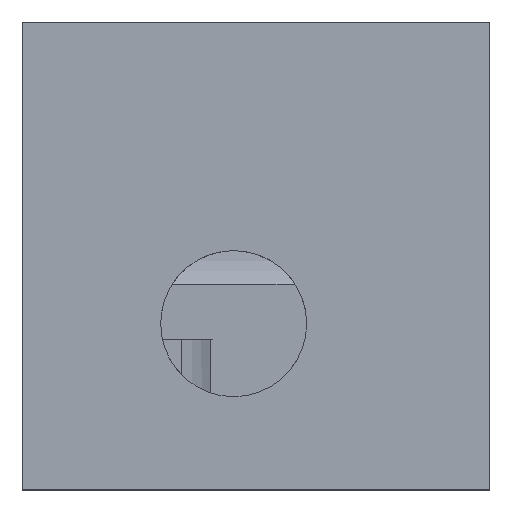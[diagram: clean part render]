
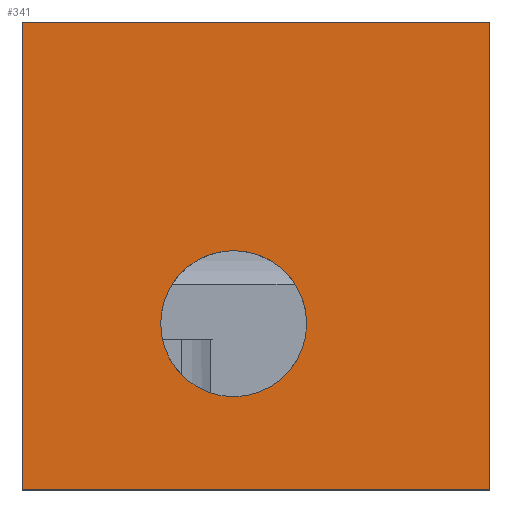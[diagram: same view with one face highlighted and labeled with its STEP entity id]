
A CAD part, top view. The second image highlights one B-rep face of the part: STEP entity #341.
In plain terms, the highlighted planar face has unit normal (0, 0, 1).
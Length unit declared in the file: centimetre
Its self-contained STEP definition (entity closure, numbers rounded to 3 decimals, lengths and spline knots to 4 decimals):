
#35 = CARTESIAN_POINT ( 'NONE',  ( 1000., 1000., 1000. ) ) ;
#37 = VECTOR ( 'NONE', #101, 100. ) ;
#63 = DIRECTION ( 'NONE',  ( 0., 0., 1. ) ) ;
#64 = LINE ( 'NONE', #436, #99 ) ;
#68 = ORIENTED_EDGE ( 'NONE', *, *, #257, .F. ) ;
#79 = CARTESIAN_POINT ( 'NONE',  ( 0., 1000., 1000. ) ) ;
#83 = LINE ( 'NONE', #699, #469 ) ;
#99 = VECTOR ( 'NONE', #658, 100. ) ;
#101 = DIRECTION ( 'NONE',  ( 0., -1., 0. ) ) ;
#113 = CIRCLE ( 'NONE', #666, 156.303 ) ;
#144 = DIRECTION ( 'NONE',  ( 1., 0., 0. ) ) ;
#147 = EDGE_CURVE ( 'NONE', #466, #272, #83, .T. ) ;
#153 = CARTESIAN_POINT ( 'NONE',  ( 0., 0., 1000. ) ) ;
#198 = FACE_BOUND ( 'NONE', #351, .T. ) ;
#219 = DIRECTION ( 'NONE',  ( 1., 0., 0. ) ) ;
#250 = CARTESIAN_POINT ( 'NONE',  ( 452.1899, 354.3472, 1000. ) ) ;
#257 = EDGE_CURVE ( 'NONE', #438, #620, #400, .T. ) ;
#260 = FACE_OUTER_BOUND ( 'NONE', #723, .T. ) ;
#268 = VERTEX_POINT ( 'NONE', #79 ) ;
#269 = DIRECTION ( 'NONE',  ( 0., 0., 1. ) ) ;
#272 = VERTEX_POINT ( 'NONE', #277 ) ;
#277 = CARTESIAN_POINT ( 'NONE',  ( 1000., 0., 1000. ) ) ;
#278 = EDGE_CURVE ( 'NONE', #272, #378, #333, .T. ) ;
#289 = ORIENTED_EDGE ( 'NONE', *, *, #631, .T. ) ;
#293 = EDGE_CURVE ( 'NONE', #620, #438, #113, .T. ) ;
#301 = CARTESIAN_POINT ( 'NONE',  ( 608.4929, 354.3472, 1000. ) ) ;
#313 = DIRECTION ( 'NONE',  ( 0., 1., 0. ) ) ;
#333 = LINE ( 'NONE', #435, #468 ) ;
#341 = ADVANCED_FACE ( 'NONE', ( #198, #260 ), #495, .T. ) ;
#351 = EDGE_LOOP ( 'NONE', ( #623, #68 ) ) ;
#378 = VERTEX_POINT ( 'NONE', #35 ) ;
#380 = DIRECTION ( 'NONE',  ( 1., 0., 0. ) ) ;
#400 = CIRCLE ( 'NONE', #591, 156.303 ) ;
#408 = ORIENTED_EDGE ( 'NONE', *, *, #777, .T. ) ;
#412 = AXIS2_PLACEMENT_3D ( 'NONE', #675, #269, #219 ) ;
#435 = CARTESIAN_POINT ( 'NONE',  ( 1000., 1000., 1000. ) ) ;
#436 = CARTESIAN_POINT ( 'NONE',  ( 0., 1000., 1000. ) ) ;
#438 = VERTEX_POINT ( 'NONE', #693 ) ;
#451 = DIRECTION ( 'NONE',  ( 0., 0., 1. ) ) ;
#466 = VERTEX_POINT ( 'NONE', #153 ) ;
#468 = VECTOR ( 'NONE', #313, 100. ) ;
#469 = VECTOR ( 'NONE', #695, 100. ) ;
#480 = ORIENTED_EDGE ( 'NONE', *, *, #278, .T. ) ;
#495 = PLANE ( 'NONE',  #412 ) ;
#569 = CARTESIAN_POINT ( 'NONE',  ( 452.1899, 354.3472, 1000. ) ) ;
#591 = AXIS2_PLACEMENT_3D ( 'NONE', #250, #451, #144 ) ;
#620 = VERTEX_POINT ( 'NONE', #301 ) ;
#623 = ORIENTED_EDGE ( 'NONE', *, *, #293, .F. ) ;
#631 = EDGE_CURVE ( 'NONE', #268, #466, #771, .T. ) ;
#658 = DIRECTION ( 'NONE',  ( -1., 0., 0. ) ) ;
#663 = ORIENTED_EDGE ( 'NONE', *, *, #147, .T. ) ;
#666 = AXIS2_PLACEMENT_3D ( 'NONE', #569, #63, #380 ) ;
#675 = CARTESIAN_POINT ( 'NONE',  ( 0., 0., 1000. ) ) ;
#693 = CARTESIAN_POINT ( 'NONE',  ( 295.8868, 354.3472, 1000. ) ) ;
#695 = DIRECTION ( 'NONE',  ( 1., 0., 0. ) ) ;
#699 = CARTESIAN_POINT ( 'NONE',  ( 0., 0., 1000. ) ) ;
#723 = EDGE_LOOP ( 'NONE', ( #289, #663, #480, #408 ) ) ;
#771 = LINE ( 'NONE', #778, #37 ) ;
#777 = EDGE_CURVE ( 'NONE', #378, #268, #64, .T. ) ;
#778 = CARTESIAN_POINT ( 'NONE',  ( 0., 1000., 1000. ) ) ;
